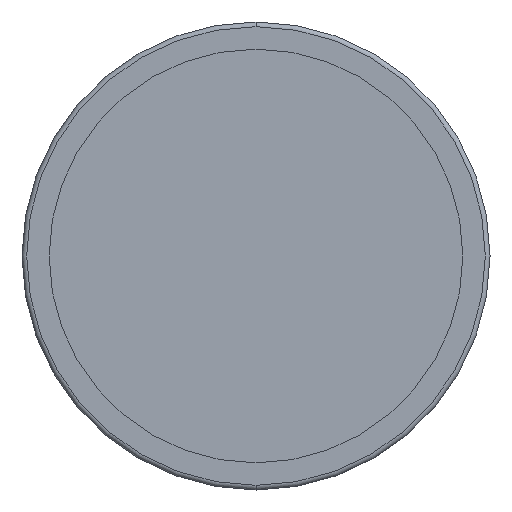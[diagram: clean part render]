
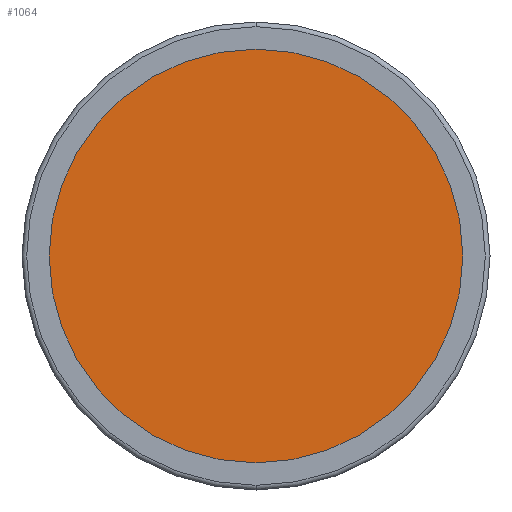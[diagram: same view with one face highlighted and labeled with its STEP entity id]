
A CAD part, front view. The second image highlights one B-rep face of the part: STEP entity #1064.
In plain terms, the highlighted planar face has unit normal (0, -1, 0).
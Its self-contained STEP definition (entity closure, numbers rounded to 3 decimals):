
#195 = DIRECTION ( 'NONE',  ( 0., 0., 1. ) ) ;
#302 = PLANE ( 'NONE',  #666 ) ;
#310 = DIRECTION ( 'NONE',  ( 0., 1., 0. ) ) ;
#360 = VERTEX_POINT ( 'NONE', #1951 ) ;
#412 = AXIS2_PLACEMENT_3D ( 'NONE', #1460, #310, #2258 ) ;
#449 = AXIS2_PLACEMENT_3D ( 'NONE', #1565, #2090, #195 ) ;
#666 = AXIS2_PLACEMENT_3D ( 'NONE', #1473, #1294, #2066 ) ;
#930 = VERTEX_POINT ( 'NONE', #953 ) ;
#953 = CARTESIAN_POINT ( 'NONE',  ( 0., -3., 43.75 ) ) ;
#1064 = ADVANCED_FACE ( 'NONE', ( #2451 ), #302, .T. ) ;
#1294 = DIRECTION ( 'NONE',  ( 0., -1., 0. ) ) ;
#1339 = CIRCLE ( 'NONE', #449, 43.75 ) ;
#1460 = CARTESIAN_POINT ( 'NONE',  ( 0., -3., 0. ) ) ;
#1473 = CARTESIAN_POINT ( 'NONE',  ( -43.75, -3., 0. ) ) ;
#1497 = CIRCLE ( 'NONE', #412, 43.75 ) ;
#1563 = ORIENTED_EDGE ( 'NONE', *, *, #2432, .F. ) ;
#1565 = CARTESIAN_POINT ( 'NONE',  ( 0., -3., 0. ) ) ;
#1758 = ORIENTED_EDGE ( 'NONE', *, *, #2182, .F. ) ;
#1784 = EDGE_LOOP ( 'NONE', ( #1758, #1563 ) ) ;
#1951 = CARTESIAN_POINT ( 'NONE',  ( 0., -3., -43.75 ) ) ;
#2066 = DIRECTION ( 'NONE',  ( 0., 0., -1. ) ) ;
#2090 = DIRECTION ( 'NONE',  ( 0., 1., 0. ) ) ;
#2182 = EDGE_CURVE ( 'NONE', #930, #360, #1339, .T. ) ;
#2258 = DIRECTION ( 'NONE',  ( 0., 0., 1. ) ) ;
#2432 = EDGE_CURVE ( 'NONE', #360, #930, #1497, .T. ) ;
#2451 = FACE_OUTER_BOUND ( 'NONE', #1784, .T. ) ;
